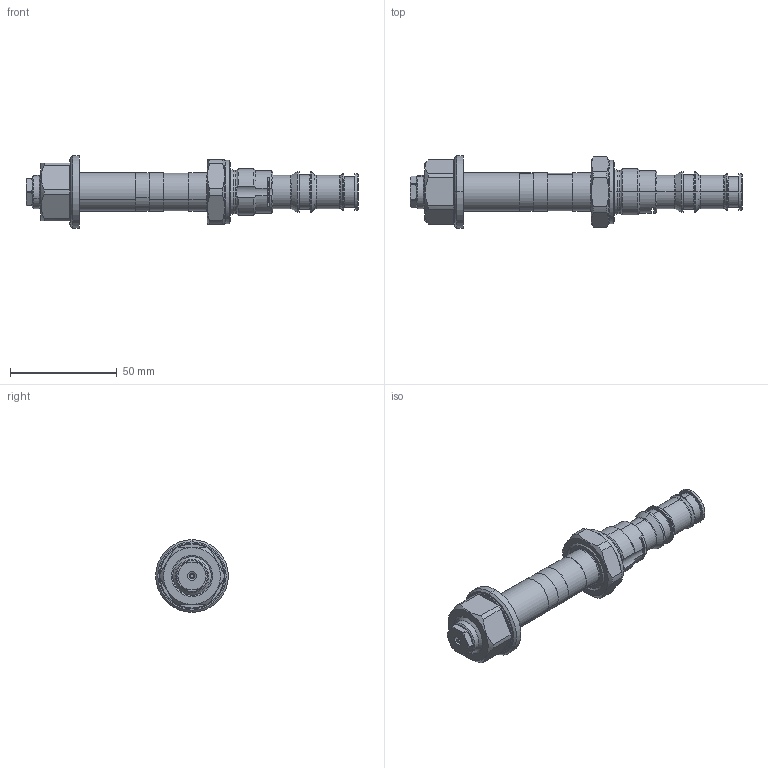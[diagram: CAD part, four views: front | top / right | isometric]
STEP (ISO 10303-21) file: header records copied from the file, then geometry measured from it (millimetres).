
FILE_DESCRIPTION (( 'STEP AP214' ), '1' );
FILE_NAME ('MVBPM22.STEP', '2014-03-19T09:35:51', ( '' ), ( '' ), 'SwSTEP 2.0', 'SolidWorks 2012', '' );
FILE_SCHEMA (( 'AUTOMOTIVE_DESIGN' ));
Length unit declared in the file: millimetre
Products named in the file (1): MVBPM22
Bounding box: 155.5 x 34 x 34 mm (x, y, z)
Volume: 49659.5 mm3; surface area: 22483.7 mm2
Topology: 10 solids, 10 shells, 421 faces, 932 edges, 556 vertices
Faces by surface type: cylinder 137, cone 101, torus 81, plane 80, bspline 22
Entity records: 17044 total; most frequent: CARTESIAN_POINT 2870, DIRECTION 2171, ORIENTED_EDGE 1860, AXIS2_PLACEMENT_3D 951, EDGE_CURVE 930, VERTEX_POINT 556, CIRCLE 551, EDGE_LOOP 462
